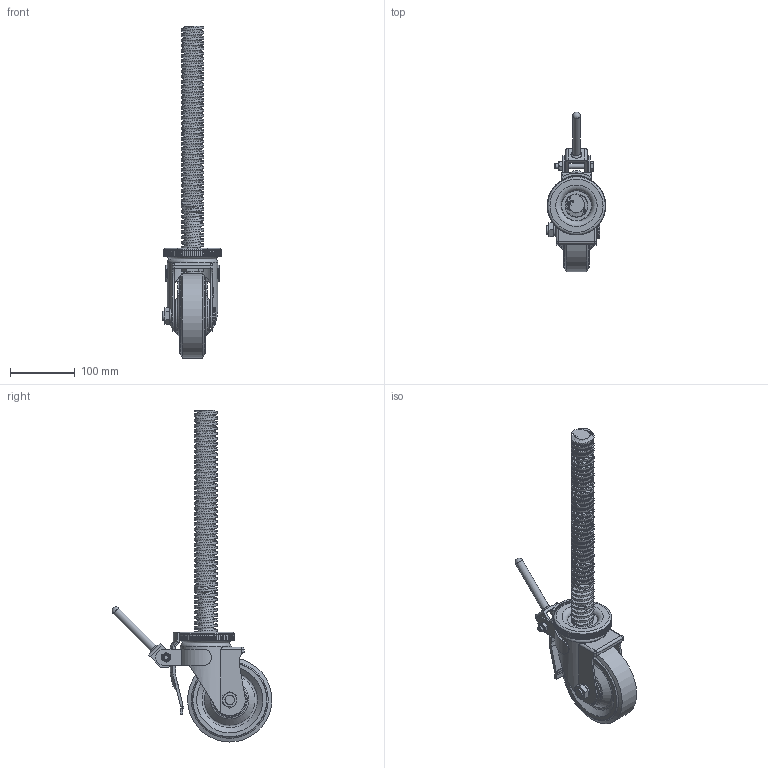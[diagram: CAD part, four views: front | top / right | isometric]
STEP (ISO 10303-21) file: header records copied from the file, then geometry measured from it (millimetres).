
FILE_DESCRIPTION(/* description */ (''),/* implementation_level */ '2;1');
FILE_NAME(/* name */ '66A03_5_F.stp',/* time_stamp */ '2022-10-17T14:24:54+08:00',/* author */ (''),/* organization */ (''),/* preprocessor_version */ 'ST-DEVELOPER v14',/* originating_system */ 'SIEMENS PLM Software NX 8.0',/* authorisation */ '');
FILE_SCHEMA (('AUTOMOTIVE_DESIGN { 1 0 10303 214 3 1 1 1 }'));
Products named in the file (1): 66A03_5_F
Bounding box: 91.5 x 246.45 x 512.02 mm (x, y, z)
Volume: 699834.9 mm3; surface area: 297045.9 mm2
Topology: 1 solids, 6 shells, 1004 faces, 2731 edges, 1784 vertices
Faces by surface type: plane 641, cylinder 229, cone 65, torus 39, bspline 19, sphere 6, revolution 3, extrusion 2
Full cylindrical faces by diameter (mm): 8 x3, 8.5 x3, 12 x2, 13 x1, 14 x2, 20 x4, 20.2 x1, 22 x1, 25 x1, 27 x1, 30 x1, 31 x2, 37.5 x1, 39.8 x4, 40.4 x2, 43.2 x1, 43.3 x1, 47 x4, 47.2 x1, 50 x2, 67 x1, 72 x1, 73.5 x1, 78 x1, 78.5 x1, 82 x1, 112.509 x1, 130 x1
Entity records: 49595 total; most frequent: CARTESIAN_POINT 25894, ORIENTED_EDGE 5168, DIRECTION 4379, EDGE_CURVE 2584, VERTEX_POINT 1745, AXIS2_PLACEMENT_3D 1548, VECTOR 1280, LINE 1278
